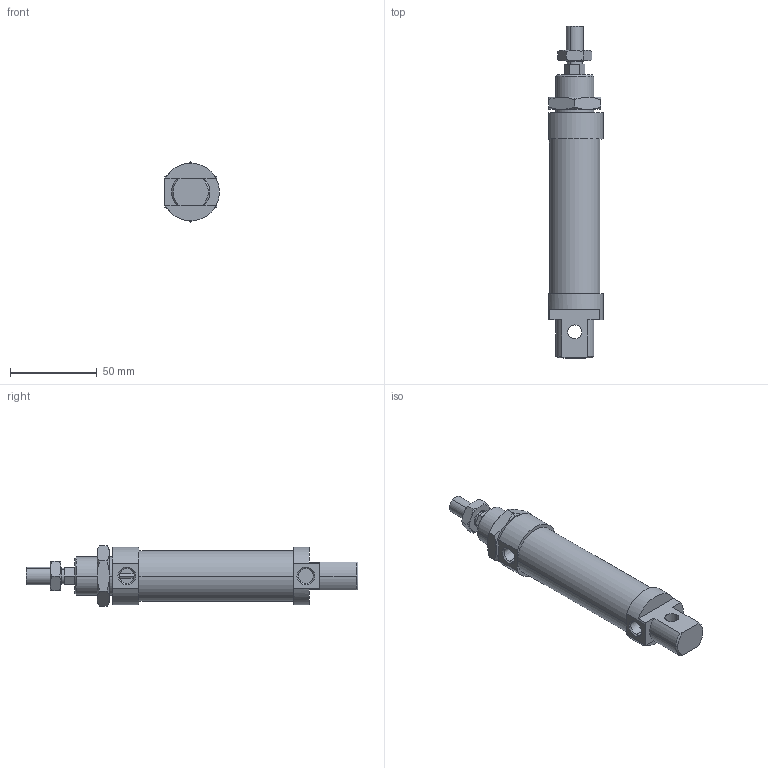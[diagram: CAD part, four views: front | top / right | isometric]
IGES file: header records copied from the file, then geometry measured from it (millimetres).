
Global section: file name: No Iges File Name specified; native system: AutoDesk Inventor R6.0; preprocessor: AutoDesk Inventor Iges Exporter R6.0; author: No Author specified; organization: No Organization specified; date: 20030405.074138; units: millimetre
Bounding box: 31.5 x 191 x 34.64 mm (x, y, z)
Volume: 101575.9 mm3; surface area: 26769.1 mm2
Topology: 4 solids, 4 shells, 125 faces, 285 edges, 174 vertices
Faces by surface type: plane 46, cone 38, bspline 21, cylinder 16, revolution 4
